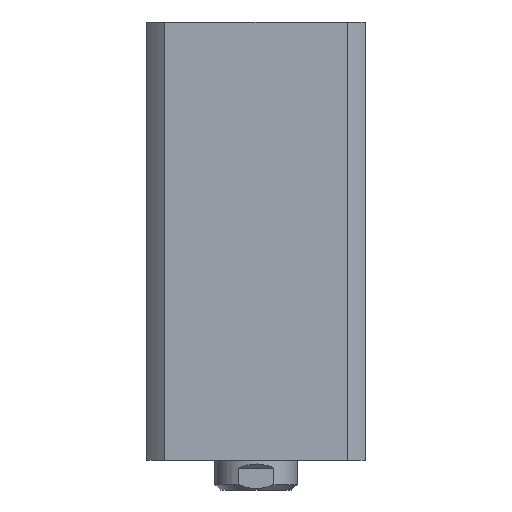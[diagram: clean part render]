
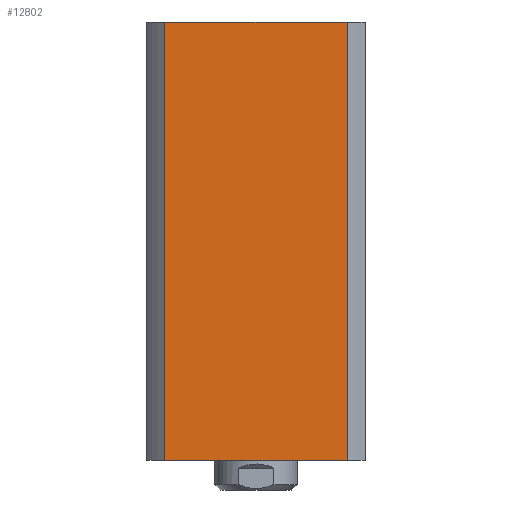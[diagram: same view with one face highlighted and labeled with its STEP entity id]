
A CAD part, left-side view. The second image highlights one B-rep face of the part: STEP entity #12802.
In plain terms, the highlighted planar face has unit normal (-1, 0, 0).
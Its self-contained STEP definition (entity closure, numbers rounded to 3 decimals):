
#1047 = DIRECTION ( 'NONE',  ( 0., -1., 0. ) ) ;
#1256 = ORIENTED_EDGE ( 'NONE', *, *, #4486, .F. ) ;
#1363 = ORIENTED_EDGE ( 'NONE', *, *, #1754, .T. ) ;
#1481 = VERTEX_POINT ( 'NONE', #2622 ) ;
#1525 = EDGE_LOOP ( 'NONE', ( #7304, #2909, #1256, #1363 ) ) ;
#1708 = FACE_OUTER_BOUND ( 'NONE', #1525, .T. ) ;
#1754 = EDGE_CURVE ( 'NONE', #2392, #1481, #3466, .T. ) ;
#1761 = EDGE_CURVE ( 'NONE', #4140, #5423, #13463, .T. ) ;
#2293 = VECTOR ( 'NONE', #5845, 1000. ) ;
#2353 = CARTESIAN_POINT ( 'NONE',  ( -40., 33.226, 80. ) ) ;
#2392 = VERTEX_POINT ( 'NONE', #13388 ) ;
#2555 = AXIS2_PLACEMENT_3D ( 'NONE', #12561, #11568, #12661 ) ;
#2622 = CARTESIAN_POINT ( 'NONE',  ( -40., 33.226, -80. ) ) ;
#2909 = ORIENTED_EDGE ( 'NONE', *, *, #1761, .F. ) ;
#3466 = LINE ( 'NONE', #7918, #2293 ) ;
#4140 = VERTEX_POINT ( 'NONE', #5392 ) ;
#4486 = EDGE_CURVE ( 'NONE', #2392, #4140, #13788, .T. ) ;
#4818 = VECTOR ( 'NONE', #10111, 1000. ) ;
#5392 = CARTESIAN_POINT ( 'NONE',  ( -40., -33.226, 80. ) ) ;
#5423 = VERTEX_POINT ( 'NONE', #5920 ) ;
#5845 = DIRECTION ( 'NONE',  ( 0., 0., -1. ) ) ;
#5920 = CARTESIAN_POINT ( 'NONE',  ( -40., -33.226, -80. ) ) ;
#7304 = ORIENTED_EDGE ( 'NONE', *, *, #10837, .T. ) ;
#7918 = CARTESIAN_POINT ( 'NONE',  ( -40., 33.226, 80. ) ) ;
#8686 = CARTESIAN_POINT ( 'NONE',  ( -40., 33.226, -80. ) ) ;
#9512 = VECTOR ( 'NONE', #1047, 1000. ) ;
#9681 = LINE ( 'NONE', #8686, #9512 ) ;
#9896 = DIRECTION ( 'NONE',  ( 0., -1., 0. ) ) ;
#10111 = DIRECTION ( 'NONE',  ( 0., 0., -1. ) ) ;
#10243 = CARTESIAN_POINT ( 'NONE',  ( -40., -33.226, 80. ) ) ;
#10837 = EDGE_CURVE ( 'NONE', #1481, #5423, #9681, .T. ) ;
#11520 = PLANE ( 'NONE',  #2555 ) ;
#11568 = DIRECTION ( 'NONE',  ( 1., 0., 0. ) ) ;
#11736 = VECTOR ( 'NONE', #9896, 1000. ) ;
#12561 = CARTESIAN_POINT ( 'NONE',  ( -40., 33.226, 80. ) ) ;
#12661 = DIRECTION ( 'NONE',  ( 0., 1., 0. ) ) ;
#12802 = ADVANCED_FACE ( 'NONE', ( #1708 ), #11520, .F. ) ;
#13388 = CARTESIAN_POINT ( 'NONE',  ( -40., 33.226, 80. ) ) ;
#13463 = LINE ( 'NONE', #10243, #4818 ) ;
#13788 = LINE ( 'NONE', #2353, #11736 ) ;
